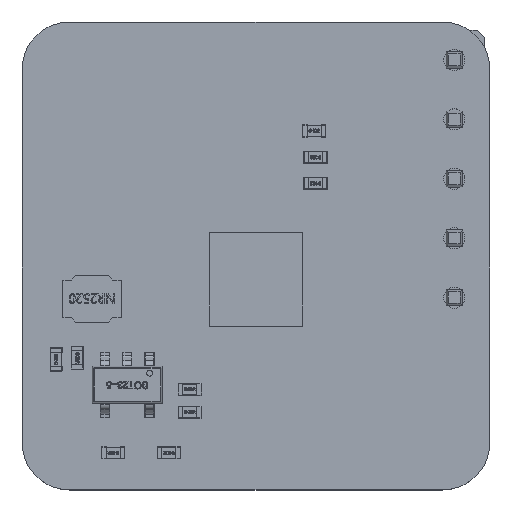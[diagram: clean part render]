
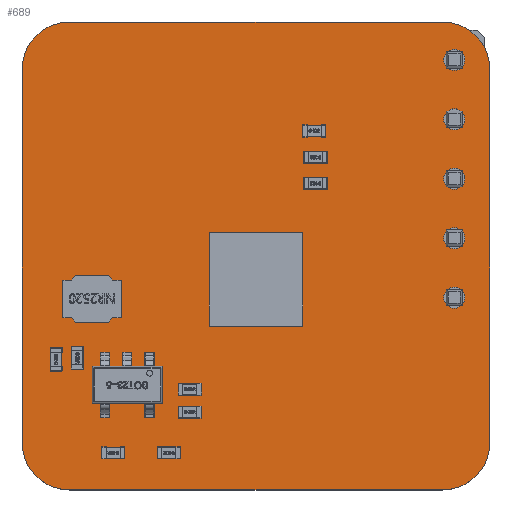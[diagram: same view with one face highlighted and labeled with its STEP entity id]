
A CAD part, top view. The second image highlights one B-rep face of the part: STEP entity #689.
In plain terms, the highlighted planar face has unit normal (0, 0, 1).
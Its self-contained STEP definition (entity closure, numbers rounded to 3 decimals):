
#244 = VERTEX_POINT('',#245);
#245 = CARTESIAN_POINT('',(2.032,0.,1.303)
  );
#251 = EDGE_CURVE('',#244,#252,#254,.T.);
#252 = VERTEX_POINT('',#253);
#253 = CARTESIAN_POINT('',(0.,2.032,1.303)
  );
#254 = CIRCLE('',#255,2.031);
#255 = AXIS2_PLACEMENT_3D('',#256,#257,#258);
#256 = CARTESIAN_POINT('',(2.031,2.031,1.303));
#257 = DIRECTION('',(0.,0.,-1.));
#258 = DIRECTION('',(0.,-1.,0.));
#284 = EDGE_CURVE('',#252,#285,#287,.T.);
#285 = VERTEX_POINT('',#286);
#286 = CARTESIAN_POINT('',(0.,17.968,1.303
    ));
#287 = LINE('',#288,#289);
#288 = CARTESIAN_POINT('',(0.,2.032,1.303));
#289 = VECTOR('',#290,1.);
#290 = DIRECTION('',(0.,1.,0.));
#315 = EDGE_CURVE('',#285,#316,#318,.T.);
#316 = VERTEX_POINT('',#317);
#317 = CARTESIAN_POINT('',(2.032,20.,1.303));
#318 = CIRCLE('',#319,2.031);
#319 = AXIS2_PLACEMENT_3D('',#320,#321,#322);
#320 = CARTESIAN_POINT('',(2.031,17.969,1.303));
#321 = DIRECTION('',(0.,0.,-1.));
#322 = DIRECTION('',(-1.,0.,0.));
#348 = EDGE_CURVE('',#316,#349,#351,.T.);
#349 = VERTEX_POINT('',#350);
#350 = CARTESIAN_POINT('',(17.968,20.,1.303));
#351 = LINE('',#352,#353);
#352 = CARTESIAN_POINT('',(2.032,20.,1.303));
#353 = VECTOR('',#354,1.);
#354 = DIRECTION('',(1.,0.,0.));
#379 = EDGE_CURVE('',#349,#380,#382,.T.);
#380 = VERTEX_POINT('',#381);
#381 = CARTESIAN_POINT('',(20.,17.968,1.303));
#382 = CIRCLE('',#383,2.031);
#383 = AXIS2_PLACEMENT_3D('',#384,#385,#386);
#384 = CARTESIAN_POINT('',(17.969,17.969,1.303));
#385 = DIRECTION('',(0.,0.,-1.));
#386 = DIRECTION('',(0.,1.,0.));
#412 = EDGE_CURVE('',#380,#413,#415,.T.);
#413 = VERTEX_POINT('',#414);
#414 = CARTESIAN_POINT('',(20.,2.032,1.303));
#415 = LINE('',#416,#417);
#416 = CARTESIAN_POINT('',(20.,17.968,1.303));
#417 = VECTOR('',#418,1.);
#418 = DIRECTION('',(0.,-1.,0.));
#443 = EDGE_CURVE('',#413,#444,#446,.T.);
#444 = VERTEX_POINT('',#445);
#445 = CARTESIAN_POINT('',(17.968,0.,1.303
    ));
#446 = CIRCLE('',#447,2.031);
#447 = AXIS2_PLACEMENT_3D('',#448,#449,#450);
#448 = CARTESIAN_POINT('',(17.969,2.031,1.303));
#449 = DIRECTION('',(0.,0.,-1.));
#450 = DIRECTION('',(1.,0.,0.));
#476 = EDGE_CURVE('',#444,#244,#477,.T.);
#477 = LINE('',#478,#479);
#478 = CARTESIAN_POINT('',(17.968,0.,1.303));
#479 = VECTOR('',#480,1.);
#480 = DIRECTION('',(-1.,0.,0.));
#500 = VERTEX_POINT('',#501);
#501 = CARTESIAN_POINT('',(18.926,8.219,1.303));
#507 = EDGE_CURVE('',#500,#500,#508,.T.);
#508 = CIRCLE('',#509,0.45);
#509 = AXIS2_PLACEMENT_3D('',#510,#511,#512);
#510 = CARTESIAN_POINT('',(18.476,8.219,1.303));
#511 = DIRECTION('',(0.,0.,1.));
#512 = DIRECTION('',(1.,0.,0.));
#533 = VERTEX_POINT('',#534);
#534 = CARTESIAN_POINT('',(18.926,10.759,1.303));
#540 = EDGE_CURVE('',#533,#533,#541,.T.);
#541 = CIRCLE('',#542,0.45);
#542 = AXIS2_PLACEMENT_3D('',#543,#544,#545);
#543 = CARTESIAN_POINT('',(18.476,10.759,1.303));
#544 = DIRECTION('',(0.,0.,1.));
#545 = DIRECTION('',(1.,0.,0.));
#566 = VERTEX_POINT('',#567);
#567 = CARTESIAN_POINT('',(18.926,13.299,1.303));
#573 = EDGE_CURVE('',#566,#566,#574,.T.);
#574 = CIRCLE('',#575,0.45);
#575 = AXIS2_PLACEMENT_3D('',#576,#577,#578);
#576 = CARTESIAN_POINT('',(18.476,13.299,1.303));
#577 = DIRECTION('',(0.,0.,1.));
#578 = DIRECTION('',(1.,0.,0.));
#599 = VERTEX_POINT('',#600);
#600 = CARTESIAN_POINT('',(18.926,18.379,1.303));
#606 = EDGE_CURVE('',#599,#599,#607,.T.);
#607 = CIRCLE('',#608,0.45);
#608 = AXIS2_PLACEMENT_3D('',#609,#610,#611);
#609 = CARTESIAN_POINT('',(18.476,18.379,1.303));
#610 = DIRECTION('',(0.,0.,1.));
#611 = DIRECTION('',(1.,0.,0.));
#632 = VERTEX_POINT('',#633);
#633 = CARTESIAN_POINT('',(18.926,15.839,1.303));
#639 = EDGE_CURVE('',#632,#632,#640,.T.);
#640 = CIRCLE('',#641,0.45);
#641 = AXIS2_PLACEMENT_3D('',#642,#643,#644);
#642 = CARTESIAN_POINT('',(18.476,15.839,1.303));
#643 = DIRECTION('',(0.,0.,1.));
#644 = DIRECTION('',(1.,0.,0.));
#689 = ADVANCED_FACE('',(#690,#700,#703,#706,#709,#712),#715,.T.);
#690 = FACE_BOUND('',#691,.F.);
#691 = EDGE_LOOP('',(#692,#693,#694,#695,#696,#697,#698,#699));
#692 = ORIENTED_EDGE('',*,*,#251,.T.);
#693 = ORIENTED_EDGE('',*,*,#284,.T.);
#694 = ORIENTED_EDGE('',*,*,#315,.T.);
#695 = ORIENTED_EDGE('',*,*,#348,.T.);
#696 = ORIENTED_EDGE('',*,*,#379,.T.);
#697 = ORIENTED_EDGE('',*,*,#412,.T.);
#698 = ORIENTED_EDGE('',*,*,#443,.T.);
#699 = ORIENTED_EDGE('',*,*,#476,.T.);
#700 = FACE_BOUND('',#701,.T.);
#701 = EDGE_LOOP('',(#702));
#702 = ORIENTED_EDGE('',*,*,#507,.F.);
#703 = FACE_BOUND('',#704,.T.);
#704 = EDGE_LOOP('',(#705));
#705 = ORIENTED_EDGE('',*,*,#540,.F.);
#706 = FACE_BOUND('',#707,.T.);
#707 = EDGE_LOOP('',(#708));
#708 = ORIENTED_EDGE('',*,*,#573,.F.);
#709 = FACE_BOUND('',#710,.T.);
#710 = EDGE_LOOP('',(#711));
#711 = ORIENTED_EDGE('',*,*,#606,.F.);
#712 = FACE_BOUND('',#713,.T.);
#713 = EDGE_LOOP('',(#714));
#714 = ORIENTED_EDGE('',*,*,#639,.F.);
#715 = PLANE('',#716);
#716 = AXIS2_PLACEMENT_3D('',#717,#718,#719);
#717 = CARTESIAN_POINT('',(2.032,0.,1.303)
  );
#718 = DIRECTION('',(0.,0.,1.));
#719 = DIRECTION('',(1.,0.,0.));
